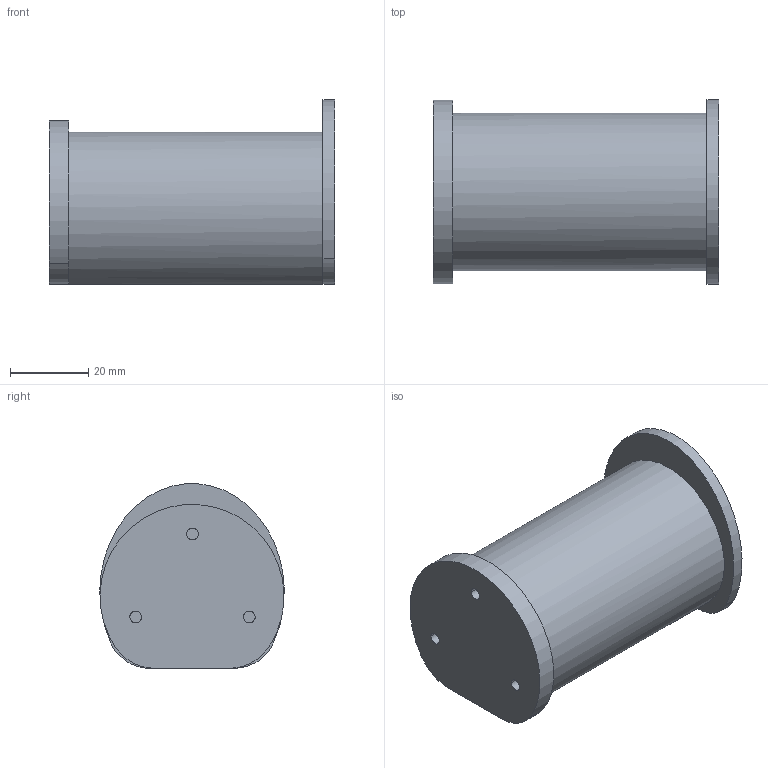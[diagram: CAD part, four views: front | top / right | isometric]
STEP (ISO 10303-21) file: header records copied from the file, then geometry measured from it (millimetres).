
FILE_DESCRIPTION(/* description */ (''),/* implementation_level */ '2;1');
FILE_NAME(/* name */ 'SO030A~1',/* time_stamp */ '2019-04-01T21:50:54-03:00',/* author */ (''),/* organization */ (''),/* preprocessor_version */ 'ST-DEVELOPER v16.5',/* originating_system */ '',/* authorisation */ '');
FILE_SCHEMA (('AUTOMOTIVE_DESIGN'));
Length unit declared in the file: millimetre
Products named in the file (1): Document
Bounding box: 73 x 47.15 x 47.19 mm (x, y, z)
Volume: 95576.3 mm3; surface area: 15266 mm2
Topology: 1 solids, 1 shells, 23 faces, 54 edges, 36 vertices
Faces by surface type: bspline 15, plane 8
Entity records: 716 total; most frequent: CARTESIAN_POINT 385, ORIENTED_EDGE 108, EDGE_CURVE 54, VERTEX_POINT 36, EDGE_LOOP 26, ADVANCED_FACE 23, FACE_OUTER_BOUND 23, DIRECTION 12
